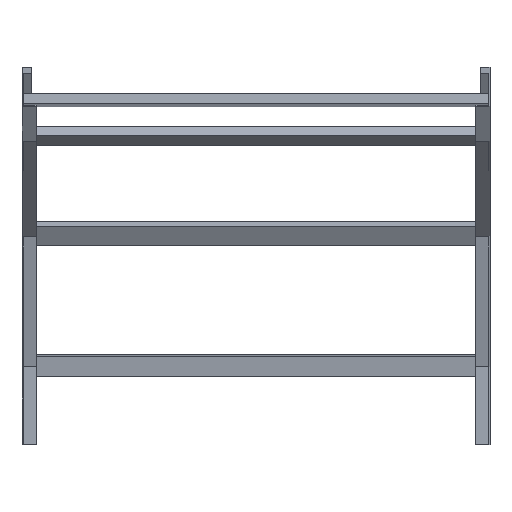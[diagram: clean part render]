
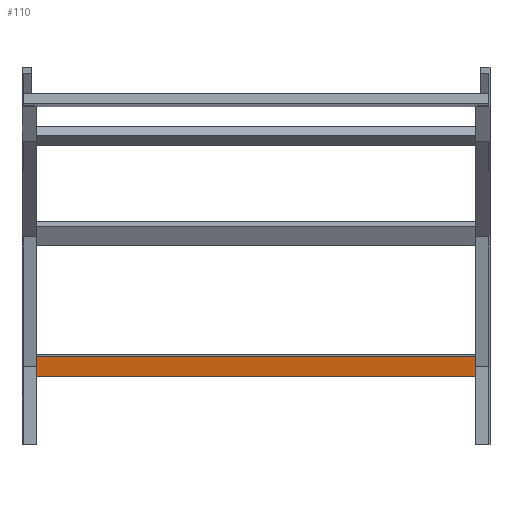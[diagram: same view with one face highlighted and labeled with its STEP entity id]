
A CAD part, front view. The second image highlights one B-rep face of the part: STEP entity #110.
In plain terms, the highlighted planar face has unit normal (0, -0.991, -0.131) as drawn and (0, -1, 0) by its records, which use the part's own axes.
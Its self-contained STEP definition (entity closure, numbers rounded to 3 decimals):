
#54 = VERTEX_POINT ( 'NONE', #844 ) ;
#110 = ADVANCED_FACE ( 'NONE', ( #239 ), #1700, .F. ) ;
#150 = CARTESIAN_POINT ( 'NONE',  ( 448., 0., 20.25 ) ) ;
#239 = FACE_OUTER_BOUND ( 'NONE', #849, .T. ) ;
#332 = CARTESIAN_POINT ( 'NONE',  ( 448., 0., -20.25 ) ) ;
#437 = CARTESIAN_POINT ( 'NONE',  ( -448., 0., 20.25 ) ) ;
#466 = VERTEX_POINT ( 'NONE', #1078 ) ;
#471 = VECTOR ( 'NONE', #916, 1000. ) ;
#493 = LINE ( 'NONE', #1276, #1391 ) ;
#580 = CARTESIAN_POINT ( 'NONE',  ( 448., 0., -20.25 ) ) ;
#583 = DIRECTION ( 'NONE',  ( 0., 0., -1. ) ) ;
#720 = CARTESIAN_POINT ( 'NONE',  ( -448., 0., 20.25 ) ) ;
#735 = VERTEX_POINT ( 'NONE', #580 ) ;
#758 = AXIS2_PLACEMENT_3D ( 'NONE', #1548, #815, #1572 ) ;
#759 = EDGE_CURVE ( 'NONE', #466, #735, #1460, .T. ) ;
#815 = DIRECTION ( 'NONE',  ( 0., 1., 0. ) ) ;
#844 = CARTESIAN_POINT ( 'NONE',  ( -448., 0., -20.25 ) ) ;
#849 = EDGE_LOOP ( 'NONE', ( #1753, #1137, #1235, #1393 ) ) ;
#916 = DIRECTION ( 'NONE',  ( -1., 0., 0. ) ) ;
#1078 = CARTESIAN_POINT ( 'NONE',  ( 448., 0., 20.25 ) ) ;
#1137 = ORIENTED_EDGE ( 'NONE', *, *, #1269, .F. ) ;
#1202 = VECTOR ( 'NONE', #1315, 1000. ) ;
#1235 = ORIENTED_EDGE ( 'NONE', *, *, #759, .F. ) ;
#1269 = EDGE_CURVE ( 'NONE', #735, #54, #1493, .T. ) ;
#1274 = VECTOR ( 'NONE', #583, 1000. ) ;
#1276 = CARTESIAN_POINT ( 'NONE',  ( 448., 0., 20.25 ) ) ;
#1315 = DIRECTION ( 'NONE',  ( 0., 0., -1. ) ) ;
#1391 = VECTOR ( 'NONE', #1501, 1000. ) ;
#1393 = ORIENTED_EDGE ( 'NONE', *, *, #1595, .T. ) ;
#1434 = LINE ( 'NONE', #720, #1274 ) ;
#1460 = LINE ( 'NONE', #150, #1202 ) ;
#1493 = LINE ( 'NONE', #332, #471 ) ;
#1501 = DIRECTION ( 'NONE',  ( -1., 0., 0. ) ) ;
#1548 = CARTESIAN_POINT ( 'NONE',  ( 448., 0., 20.25 ) ) ;
#1572 = DIRECTION ( 'NONE',  ( 0., 0., 1. ) ) ;
#1595 = EDGE_CURVE ( 'NONE', #466, #1840, #493, .T. ) ;
#1700 = PLANE ( 'NONE',  #758 ) ;
#1753 = ORIENTED_EDGE ( 'NONE', *, *, #1809, .T. ) ;
#1809 = EDGE_CURVE ( 'NONE', #1840, #54, #1434, .T. ) ;
#1840 = VERTEX_POINT ( 'NONE', #437 ) ;
